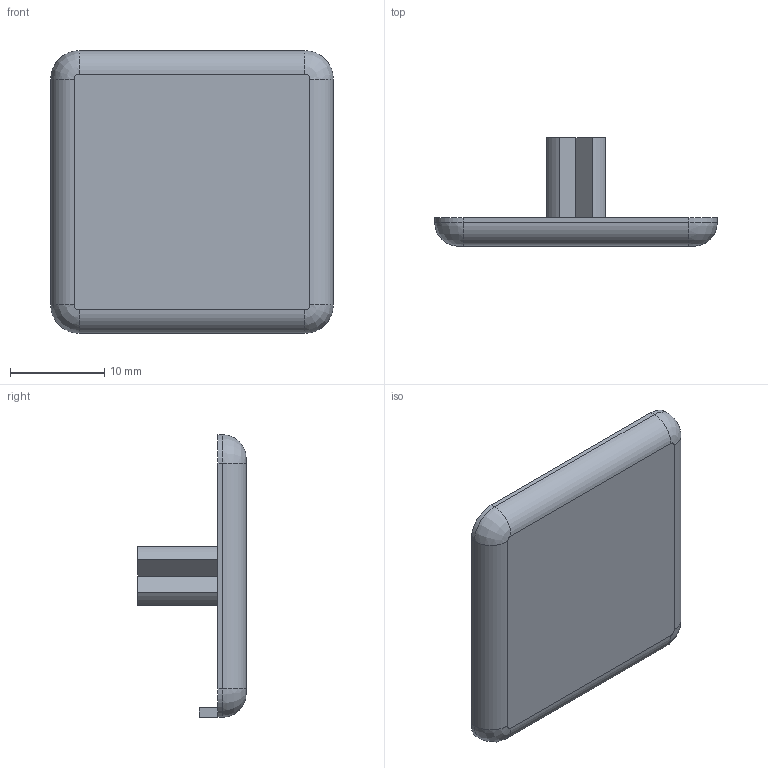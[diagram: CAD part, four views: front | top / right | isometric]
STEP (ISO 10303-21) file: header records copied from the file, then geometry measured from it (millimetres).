
FILE_DESCRIPTION(('FreeCAD Model'),'2;1');
FILE_NAME('Open CASCADE Shape Model','2021-05-04T11:31:36',('Author'),( ''),'Open CASCADE STEP processor 7.5','FreeCAD','Unknown');
FILE_SCHEMA(('AUTOMOTIVE_DESIGN { 1 0 10303 214 1 1 1 1 }'));
Length unit declared in the file: millimetre
Products named in the file (1): IR 30X30 COVER CAP KJN41922
Bounding box: 30 x 11.5 x 30 mm (x, y, z)
Volume: 2743.7 mm3; surface area: 2263.6 mm2
Topology: 1 solids, 1 shells, 35 faces, 88 edges, 56 vertices
Faces by surface type: plane 19, cylinder 12, revolution 4
Entity records: 2272 total; most frequent: CARTESIAN_POINT 428, DIRECTION 356, LINE 220, VECTOR 220, ORIENTED_EDGE 176, PCURVE 176, DEFINITIONAL_REPRESENTATION 176, EDGE_CURVE 88
